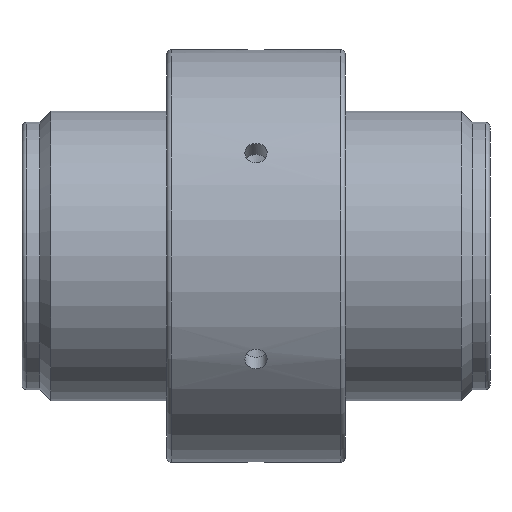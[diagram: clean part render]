
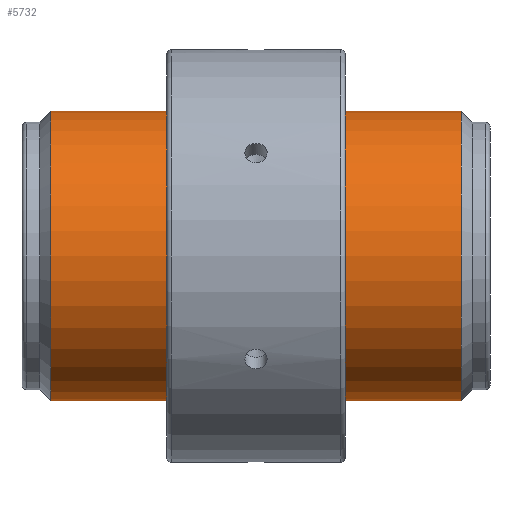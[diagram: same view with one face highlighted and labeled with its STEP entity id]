
A CAD part, left-side view. The second image highlights one B-rep face of the part: STEP entity #5732.
In plain terms, the highlighted cylindrical face has radius 65 mm (diameter 130 mm), a full revolution.
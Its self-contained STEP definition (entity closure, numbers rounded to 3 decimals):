
#37=CYLINDRICAL_SURFACE('',#6033,65.);
#56=CIRCLE('',#6032,65.);
#57=CIRCLE('',#6034,65.);
#89=FACE_BOUND('',#1157,.T.);
#809=FACE_OUTER_BOUND('',#1156,.T.);
#1156=EDGE_LOOP('',(#4573));
#1157=EDGE_LOOP('',(#4574));
#2590=VERTEX_POINT('',#8945);
#2591=VERTEX_POINT('',#8948);
#3305=EDGE_CURVE('',#2590,#2590,#56,.T.);
#3306=EDGE_CURVE('',#2591,#2591,#57,.T.);
#4573=ORIENTED_EDGE('',*,*,#3305,.T.);
#4574=ORIENTED_EDGE('',*,*,#3306,.F.);
#5732=ADVANCED_FACE('',(#809,#89),#37,.T.);
#6032=AXIS2_PLACEMENT_3D('',#8946,#6532,#6533);
#6033=AXIS2_PLACEMENT_3D('',#8947,#6534,#6535);
#6034=AXIS2_PLACEMENT_3D('',#8949,#6536,#6537);
#6532=DIRECTION('center_axis',(0.,-1.,0.));
#6533=DIRECTION('ref_axis',(1.,0.,0.));
#6534=DIRECTION('center_axis',(0.,-1.,0.));
#6535=DIRECTION('ref_axis',(1.,0.,0.));
#6536=DIRECTION('center_axis',(0.,-1.,0.));
#6537=DIRECTION('ref_axis',(1.,0.,0.));
#8945=CARTESIAN_POINT('',(65.,92.,0.));
#8946=CARTESIAN_POINT('Origin',(0.,92.,0.));
#8947=CARTESIAN_POINT('Origin',(0.,0.,0.));
#8948=CARTESIAN_POINT('',(65.,-92.,0.));
#8949=CARTESIAN_POINT('Origin',(0.,-92.,0.));
